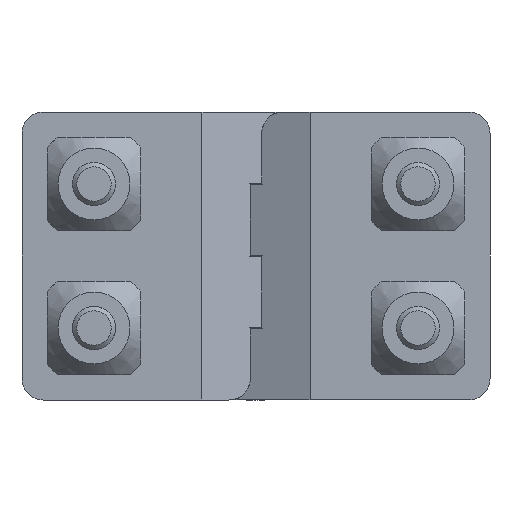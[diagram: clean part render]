
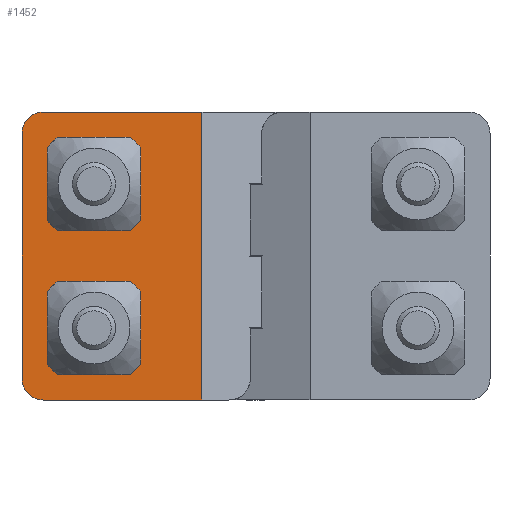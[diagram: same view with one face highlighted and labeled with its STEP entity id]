
A CAD part, front view. The second image highlights one B-rep face of the part: STEP entity #1452.
In plain terms, the highlighted planar face has unit normal (0, -1, 0) as drawn and (0, 1, 0) by its records, which use the part's own axes.
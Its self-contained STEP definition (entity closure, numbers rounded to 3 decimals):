
#463=CARTESIAN_POINT('',(1.1,80.043,3.15));
#464=VERTEX_POINT('',#463);
#471=CARTESIAN_POINT('',(1.1,80.043,-3.15));
#472=VERTEX_POINT('',#471);
#473=CARTESIAN_POINT('',(1.1,80.043,0.));
#474=DIRECTION('',(0.0,-1.0,0.0));
#475=DIRECTION('',(0.0,0.0,-1.0));
#476=AXIS2_PLACEMENT_3D('',#473,#474,#475);
#477=CIRCLE('',#476,3.15);
#478=EDGE_CURVE('',#472,#464,#477,.T.);
#495=CARTESIAN_POINT('',(-1.1,80.043,3.15));
#496=VERTEX_POINT('',#495);
#503=CARTESIAN_POINT('',(1.1,80.043,3.15));
#504=DIRECTION('',(-1.0,0.0,0.0));
#505=VECTOR('',#504,2.2);
#506=LINE('',#503,#505);
#507=EDGE_CURVE('',#464,#496,#506,.T.);
#695=CARTESIAN_POINT('',(1.1,80.043,23.15));
#696=VERTEX_POINT('',#695);
#703=CARTESIAN_POINT('',(1.1,80.043,16.85));
#704=VERTEX_POINT('',#703);
#705=CARTESIAN_POINT('',(1.1,80.043,20.));
#706=DIRECTION('',(0.0,-1.0,0.0));
#707=DIRECTION('',(0.0,0.0,-1.0));
#708=AXIS2_PLACEMENT_3D('',#705,#706,#707);
#709=CIRCLE('',#708,3.15);
#710=EDGE_CURVE('',#704,#696,#709,.T.);
#727=CARTESIAN_POINT('',(-1.1,80.043,23.15));
#728=VERTEX_POINT('',#727);
#735=CARTESIAN_POINT('',(1.1,80.043,23.15));
#736=DIRECTION('',(-1.0,0.0,0.0));
#737=VECTOR('',#736,2.2);
#738=LINE('',#735,#737);
#739=EDGE_CURVE('',#696,#728,#738,.T.);
#751=CARTESIAN_POINT('',(-1.1,80.043,-3.15));
#752=VERTEX_POINT('',#751);
#759=CARTESIAN_POINT('',(-1.1,80.043,0.));
#760=DIRECTION('',(0.0,-1.0,0.0));
#761=DIRECTION('',(0.0,0.0,1.0));
#762=AXIS2_PLACEMENT_3D('',#759,#760,#761);
#763=CIRCLE('',#762,3.15);
#764=EDGE_CURVE('',#496,#752,#763,.T.);
#777=CARTESIAN_POINT('',(-1.1,80.043,-3.15));
#778=DIRECTION('',(1.0,0.0,0.0));
#779=VECTOR('',#778,2.2);
#780=LINE('',#777,#779);
#781=EDGE_CURVE('',#752,#472,#780,.T.);
#793=CARTESIAN_POINT('',(-1.1,80.043,16.85));
#794=VERTEX_POINT('',#793);
#801=CARTESIAN_POINT('',(-1.1,80.043,20.));
#802=DIRECTION('',(0.0,-1.0,0.0));
#803=DIRECTION('',(0.0,0.0,1.0));
#804=AXIS2_PLACEMENT_3D('',#801,#802,#803);
#805=CIRCLE('',#804,3.15);
#806=EDGE_CURVE('',#728,#794,#805,.T.);
#819=CARTESIAN_POINT('',(-1.1,80.043,16.85));
#820=DIRECTION('',(1.0,0.0,0.0));
#821=VECTOR('',#820,2.2);
#822=LINE('',#819,#821);
#823=EDGE_CURVE('',#794,#704,#822,.T.);
#973=CARTESIAN_POINT('',(13.75,80.043,-10.0));
#974=VERTEX_POINT('',#973);
#981=CARTESIAN_POINT('',(13.75,80.043,30.0));
#982=VERTEX_POINT('',#981);
#983=CARTESIAN_POINT('',(13.75,80.043,30.0));
#984=DIRECTION('',(0.0,0.0,-1.0));
#985=VECTOR('',#984,40.0);
#986=LINE('',#983,#985);
#987=EDGE_CURVE('',#982,#974,#986,.T.);
#1352=CARTESIAN_POINT('',(-8.25,80.043,-10.));
#1353=VERTEX_POINT('',#1352);
#1360=CARTESIAN_POINT('',(13.75,80.043,-10.0));
#1361=DIRECTION('',(-1.0,0.0,0.0));
#1362=VECTOR('',#1361,22.);
#1363=LINE('',#1360,#1362);
#1364=EDGE_CURVE('',#974,#1353,#1363,.T.);
#1388=CARTESIAN_POINT('',(-11.25,80.043,-7.));
#1389=VERTEX_POINT('',#1388);
#1396=CARTESIAN_POINT('',(-8.25,80.043,-7.));
#1397=DIRECTION('',(0.0,1.0,0.0));
#1398=DIRECTION('',(0.0,0.0,-1.0));
#1399=AXIS2_PLACEMENT_3D('',#1396,#1397,#1398);
#1400=CIRCLE('',#1399,3.);
#1401=EDGE_CURVE('',#1353,#1389,#1400,.T.);
#1407=CARTESIAN_POINT('',(-8.25,80.043,30.0));
#1408=DIRECTION('',(0.0,1.0,0.0));
#1409=DIRECTION('',(0.0,0.0,-1.0));
#1410=AXIS2_PLACEMENT_3D('',#1407,#1408,#1409);
#1411=PLANE('',#1410);
#1412=ORIENTED_EDGE('',*,*,#1401,.T.);
#1413=CARTESIAN_POINT('',(-11.25,80.043,27.));
#1414=VERTEX_POINT('',#1413);
#1415=CARTESIAN_POINT('',(-11.25,80.043,27.));
#1416=DIRECTION('',(0.0,0.0,-1.0));
#1417=VECTOR('',#1416,34.0);
#1418=LINE('',#1415,#1417);
#1419=EDGE_CURVE('',#1414,#1389,#1418,.T.);
#1420=ORIENTED_EDGE('',*,*,#1419,.F.);
#1421=CARTESIAN_POINT('',(-8.25,80.043,30.0));
#1422=VERTEX_POINT('',#1421);
#1423=CARTESIAN_POINT('',(-8.25,80.043,27.));
#1424=DIRECTION('',(0.0,1.0,0.0));
#1425=DIRECTION('',(-1.0,0.0,0.0));
#1426=AXIS2_PLACEMENT_3D('',#1423,#1424,#1425);
#1427=CIRCLE('',#1426,3.);
#1428=EDGE_CURVE('',#1414,#1422,#1427,.T.);
#1429=ORIENTED_EDGE('',*,*,#1428,.T.);
#1430=CARTESIAN_POINT('',(13.75,80.043,30.0));
#1431=DIRECTION('',(-1.0,0.0,0.0));
#1432=VECTOR('',#1431,22.);
#1433=LINE('',#1430,#1432);
#1434=EDGE_CURVE('',#982,#1422,#1433,.T.);
#1435=ORIENTED_EDGE('',*,*,#1434,.F.);
#1436=ORIENTED_EDGE('',*,*,#987,.T.);
#1437=ORIENTED_EDGE('',*,*,#1364,.T.);
#1438=EDGE_LOOP('',(#1412,#1420,#1429,#1435,#1436,#1437));
#1439=FACE_OUTER_BOUND('',#1438,.T.);
#1440=ORIENTED_EDGE('',*,*,#764,.T.);
#1441=ORIENTED_EDGE('',*,*,#781,.T.);
#1442=ORIENTED_EDGE('',*,*,#478,.T.);
#1443=ORIENTED_EDGE('',*,*,#507,.T.);
#1444=EDGE_LOOP('',(#1440,#1441,#1442,#1443));
#1445=FACE_BOUND('',#1444,.T.);
#1446=ORIENTED_EDGE('',*,*,#806,.T.);
#1447=ORIENTED_EDGE('',*,*,#823,.T.);
#1448=ORIENTED_EDGE('',*,*,#710,.T.);
#1449=ORIENTED_EDGE('',*,*,#739,.T.);
#1450=EDGE_LOOP('',(#1446,#1447,#1448,#1449));
#1451=FACE_BOUND('',#1450,.T.);
#1452=ADVANCED_FACE('',(#1439,#1445,#1451),#1411,.T.);
